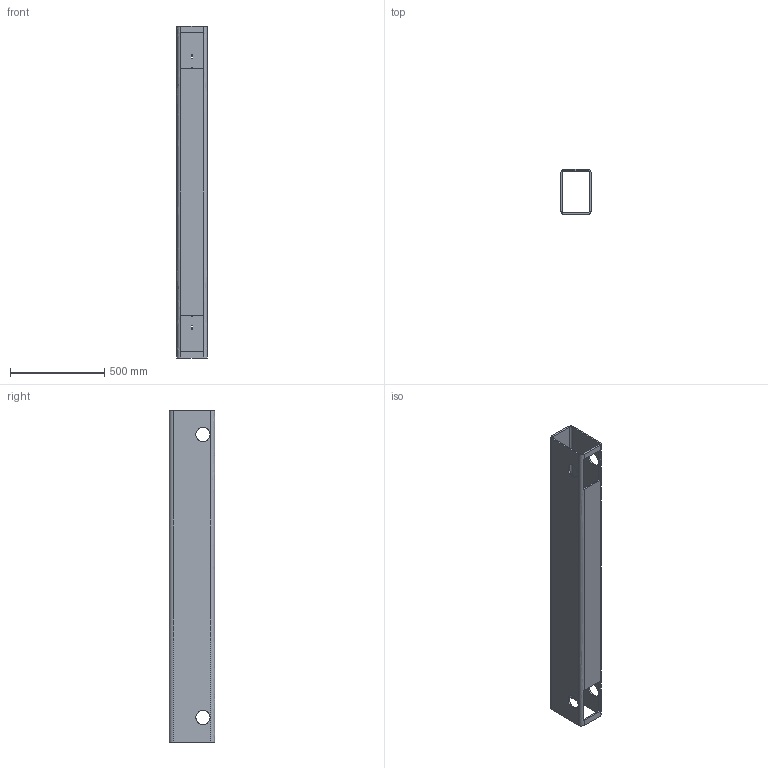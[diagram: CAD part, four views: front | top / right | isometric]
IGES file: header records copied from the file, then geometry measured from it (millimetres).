
Global section: file name: 3 1шт; native system: Autodesk Inventor 2025; preprocessor: unknown; author: Кочнев Д,,11,0,; organization: 20240509.000000; date: 20260427.152046; units: millimetre
Bounding box: 160 x 240 x 1760 mm (x, y, z)
Volume: 9821636.9 mm3; surface area: 2489501.9 mm2
Topology: 1 solids, 1 shells, 59 faces, 178 edges, 117 vertices
Faces by surface type: bspline 59
